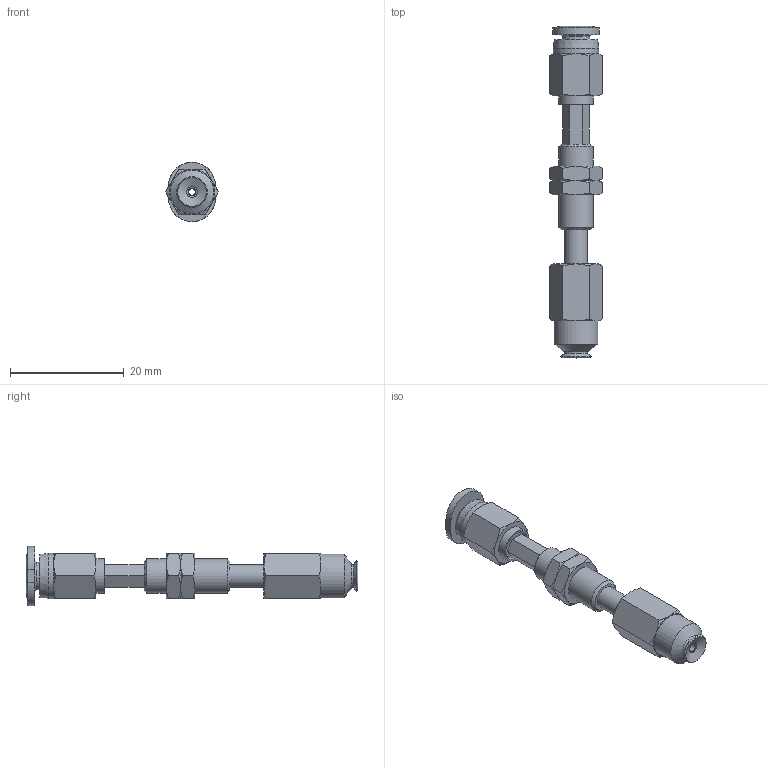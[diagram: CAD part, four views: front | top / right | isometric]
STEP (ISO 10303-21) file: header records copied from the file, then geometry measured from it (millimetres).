
FILE_DESCRIPTION(('STEP AP203'),'1');
FILE_NAME('-O.stp','2025-08-27T05:31:56',(' '),(' '),'Spatial InterOp 3D',' ',' ');
FILE_SCHEMA(('CONFIG_CONTROL_DESIGN'));
Length unit declared in the file: millimetre
Products named in the file (7): BNABPFTS-5A-6-※-O; ADAPTER; NAPCTS-7-6-MBODY; Nut-5A-6-s; NAPFTS-5A-6-FBODY; BPFG-5A-※; PC-C_04-M3
Assembly tree (7 placements, depth 2):
  BNABPFTS-5A-6-※-O
    ADAPTER
    NAPCTS-7-6-MBODY
    Nut-5A-6-s  x2
    NAPFTS-5A-6-FBODY
    BPFG-5A-※
    PC-C_04-M3
Bounding box: 9.24 x 58.27 x 10.4 mm (x, y, z)
Volume: 1484.3 mm3; surface area: 2921.4 mm2
Topology: 6 solids, 8 shells, 167 faces, 344 edges, 204 vertices
Faces by surface type: cone 64, plane 63, cylinder 23, torus 9, bspline 5, revolution 3
Full cylindrical faces by diameter (mm): 1.2 x2, 1.4 x1, 2.459 x1, 2.5 x2, 3 x1, 4 x4, 4.9 x1, 5.188 x2, 6 x4, 6.1 x1, 7.7 x1, 8 x1
Entity records: 4203 total; most frequent: CARTESIAN_POINT 1151, DIRECTION 567, ORIENTED_EDGE 482, AXIS2_PLACEMENT_3D 255, EDGE_CURVE 242, EDGE_LOOP 211, VERTEX_POINT 167, FACE_OUTER_BOUND 114
